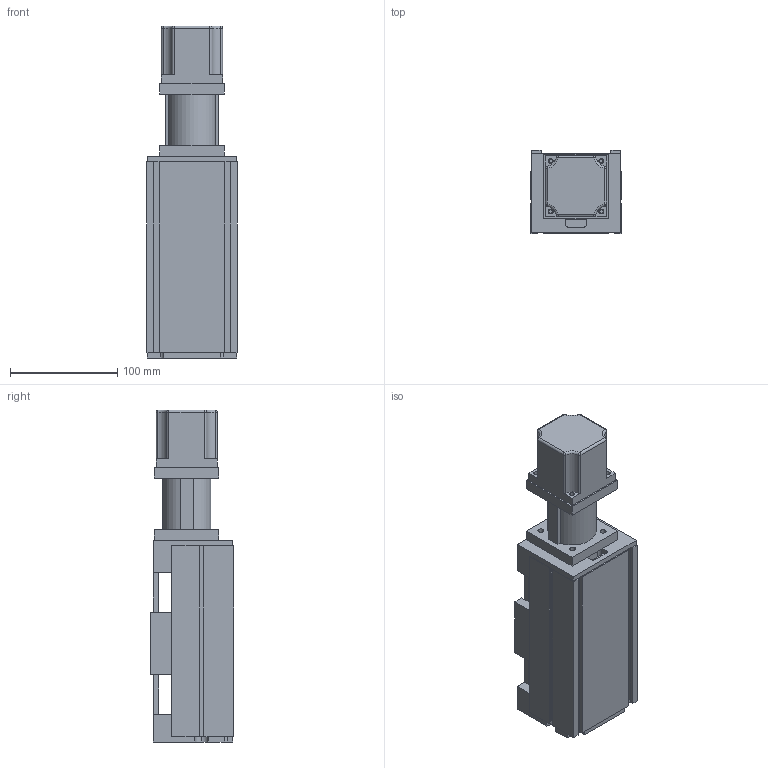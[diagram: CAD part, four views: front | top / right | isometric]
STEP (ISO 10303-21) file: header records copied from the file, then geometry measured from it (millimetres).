
FILE_DESCRIPTION (( 'STEP AP203' ), '1' );
FILE_NAME ('MSX84B-设计样例-短面板式 .STEP', '2013-11-02T03:21:20', ( '微软用户' ), ( '微软中国' ), 'SwSTEP 2.0', 'SolidWorks 2010', '' );
FILE_SCHEMA (( 'CONFIG_CONTROL_DESIGN' ));
Length unit declared in the file: millimetre
Products named in the file (1): MSX84B-设计样例-短面板式 
Bounding box: 84 x 78 x 309.5 mm (x, y, z)
Volume: 983246.2 mm3; surface area: 201595.7 mm2
Topology: 1 solids, 2 shells, 257 faces, 682 edges, 430 vertices
Faces by surface type: plane 166, cylinder 71, cone 8, sphere 8, torus 4
Entity records: 7905 total; most frequent: CARTESIAN_POINT 1358, DIRECTION 1340, ORIENTED_EDGE 1340, EDGE_CURVE 670, LINE 516, VECTOR 516, VERTEX_POINT 430, AXIS2_PLACEMENT_3D 412
